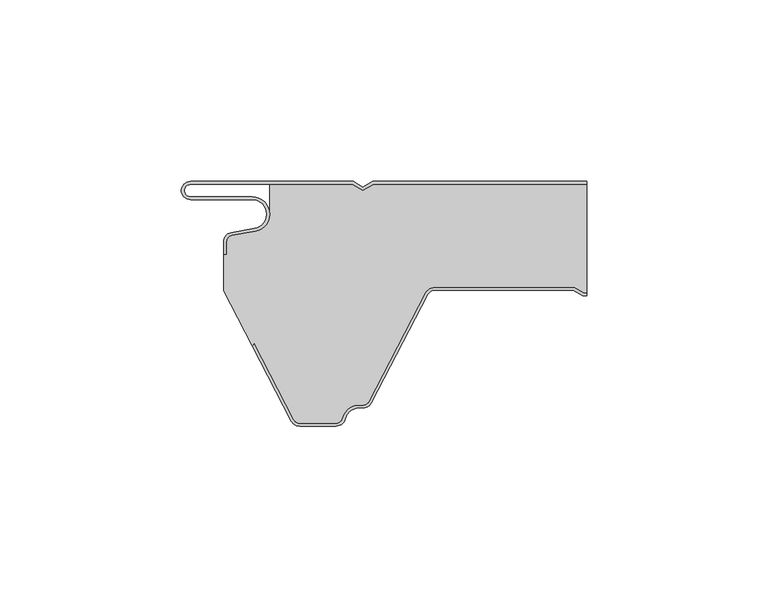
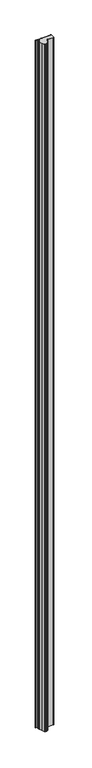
"""IFC4 building model written with IfcOpenShell, lengths in millimetres: plate geometry, ACH_Panel cubierta 5 grecas-PUR-PIR_P5G : ACH_Panel cubierta 5 grecas-PIR-P5G_30mm."""

from ifc_helpers import new_model, si_unit, frame, origin, place, context, project, spatial, polyline, circle_curve, source, transform, mapped, element, save
from ifc_brep_helpers import plane_surface, cylinder_surface, revolved_surface, advanced_brep


def plate_72f0a5d6(model_context):
    return source(origin(), model_context, "Body", "AdvancedBrep", [
        advanced_brep(
        [(-50.0, -16.636349, 5000.0), (-50.0, -20.0, 5000.0), (-49.2, -20.0, 5000.0), (-49.2, -16.636349, 5000.0), (-47.7125667, -14.863695, 5000.0), (-41.266489, -13.7270771, 5000.0), (-42.1, -4.2, 5000.0), (-59.1, -4.2, 5000.0), (-59.1, -0.8, 5000.0), (-14.5143588, -0.8, 5000.0), (-11.6, -2.4826072, 5000.0), (-8.6856412, -0.8, 5000.0), (50.0, -0.8, 5000.0), (50.0, 0.0, 5000.0), (-8.9000007, 0.0, 5000.0), (-11.6, -1.5588466, 5000.0), (-14.2999993, 0.0, 5000.0), (-59.1, 0.0, 5000.0), (-59.1, -5.0, 5000.0), (-42.1, -5.0, 5000.0), (-41.4054075, -12.939231, 5000.0), (-47.851485, -14.075848, 5000.0), (-50.0, -16.636349, 0.0), (-47.8514853, -14.0758488, 0.0), (-41.4054075, -12.9392309, 0.0), (-42.1, -5.0, 0.0), (-59.1, -5.0, 0.0), (-59.1, 0.0, 0.0), (-14.2999993, 0.0, 0.0), (-11.6, -1.5588466, 0.0), (-8.9000007, 0.0, 0.0), (50.0, 0.0, 0.0), (50.0, -0.8, 0.0), (-8.6856412, -0.8, 0.0), (-11.6, -2.4826072, 0.0), (-14.5143588, -0.8, 0.0), (-59.1, -0.8, 0.0), (-59.1, -4.2, 0.0), (-42.1, -4.2, 0.0), (-41.266489, -13.7270773, 0.0), (-47.7125665, -14.8636942, 0.0), (-49.2, -16.636349, 0.0), (-49.2, -20.0, 0.0), (-50.0, -20.0, 0.0)],
        [
            (0, 1),
            (1, 2),
            (2, 3),
            (3, 4, circle_curve(frame((-47.4, -16.636349, 5000.0), z_axis=(0.0, 0.0, -1.0), x_axis=(1.0, 0.0, 0.0)), 1.8)),
            (4, 5),
            (5, 6, circle_curve(frame((-42.1, -9.0, 5000.0), z_axis=(0.0, 0.0, 1.0), x_axis=(1.0, 0.0, 0.0)), 4.8)),
            (6, 7),
            (7, 8, circle_curve(frame((-59.1, -2.5, 5000.0), z_axis=(0.0, 0.0, -1.0), x_axis=(1.0, 0.0, 0.0)), 1.7)),
            (8, 9),
            (9, 10),
            (10, 11),
            (11, 12),
            (12, 13),
            (13, 14),
            (14, 15),
            (15, 16),
            (16, 17),
            (17, 18, circle_curve(frame((-59.1, -2.5, 5000.0), z_axis=(0.0, 0.0, 1.0), x_axis=(1.0, 0.0, 0.0)), 2.5)),
            (18, 19),
            (19, 20, circle_curve(frame((-42.1, -9.0, 5000.0), z_axis=(0.0, 0.0, -1.0), x_axis=(1.0, 0.0, 0.0)), 4.0)),
            (20, 21),
            (21, 0, circle_curve(frame((-47.4, -16.636349, 5000.0), z_axis=(0.0, 0.0, 1.0), x_axis=(1.0, 0.0, 0.0)), 2.6)),
            (22, 23, circle_curve(frame((-47.4, -16.636349, 0.0), z_axis=(0.0, 0.0, -1.0), x_axis=(1.0, 0.0, 0.0)), 2.6)),
            (23, 24),
            (24, 25, circle_curve(frame((-42.1, -9.0, 0.0), z_axis=(0.0, 0.0, 1.0), x_axis=(1.0, 0.0, 0.0)), 4.0)),
            (25, 26),
            (26, 27, circle_curve(frame((-59.1, -2.5, 0.0), z_axis=(0.0, 0.0, -1.0), x_axis=(1.0, 0.0, 0.0)), 2.5)),
            (27, 28),
            (28, 29),
            (29, 30),
            (30, 31),
            (31, 32),
            (32, 33),
            (33, 34),
            (34, 35),
            (35, 36),
            (36, 37, circle_curve(frame((-59.1, -2.5, 0.0), z_axis=(0.0, 0.0, 1.0), x_axis=(1.0, 0.0, 0.0)), 1.7)),
            (37, 38),
            (38, 39, circle_curve(frame((-42.1, -9.0, 0.0), z_axis=(0.0, 0.0, -1.0), x_axis=(1.0, 0.0, 0.0)), 4.8)),
            (39, 40),
            (40, 41, circle_curve(frame((-47.4, -16.636349, 0.0), z_axis=(0.0, 0.0, 1.0), x_axis=(1.0, 0.0, 0.0)), 1.8)),
            (41, 42),
            (42, 43),
            (43, 22),
            (0, 22),
            (43, 1),
            (42, 2),
            (41, 3),
            (40, 4),
            (39, 5),
            (38, 6),
            (37, 7),
            (36, 8),
            (35, 9),
            (34, 10),
            (33, 11),
            (32, 12),
            (30, 14),
            (13, 31),
            (29, 15),
            (28, 16),
            (27, 17),
            (26, 18),
            (25, 19),
            (24, 20),
            (23, 21),
        ],
        [
            plane_surface(frame((-50.0, 0.0, 5000.0), z_axis=(0.0, 0.0, 1.0), x_axis=(0.0, 1.0, 0.0))),
            plane_surface(frame((-50.0, 0.0, 0.0), z_axis=(0.0, 0.0, -1.0), x_axis=(0.0, 1.0, 0.0))),
            plane_surface(frame((-50.0, -16.636349, 5000.0), z_axis=(-1.0, 0.0, 0.0), x_axis=(0.0, 0.0, -1.0))),
            plane_surface(frame((-50.0, -20.0, 5000.0), z_axis=(0.0, -1.0, 0.0), x_axis=(0.0, 0.0, -1.0))),
            plane_surface(frame((-49.2, -20.0, 5000.0), z_axis=(1.0, 0.0, 0.0), x_axis=(0.0, 0.0, -1.0))),
            revolved_surface(polyline([(-45.6, -16.636349, 0.0), (-45.6, -16.636349, 5000.0)]), (-47.4, -16.636349, 5000.0), (0.0, 0.0, -1.0)),
            plane_surface(frame((-47.7125665, -14.8636942, 5000.0), z_axis=(0.17364813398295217, -0.9848077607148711, 0.0), x_axis=(0.0, 0.0, -1.0))),
            cylinder_surface(frame((-42.1, -9.0, 5000.0), z_axis=(0.0, 0.0, 1.0), x_axis=(1.0, 0.0, 0.0)), 4.8),
            plane_surface(frame((-42.1, -4.2, 5000.0), z_axis=(0.0, 1.0, 0.0), x_axis=(0.0, 0.0, -1.0))),
            revolved_surface(polyline([(-57.4, -2.5, 0.0), (-57.4, -2.5, 5000.0)]), (-59.1, -2.5, 5000.0), (0.0, 0.0, -1.0)),
            plane_surface(frame((-59.1, -0.8, 5000.0), z_axis=(0.0, -1.0, 0.0), x_axis=(0.0, 0.0, -1.0))),
            plane_surface(frame((-14.5143588, -0.8, 5000.0), z_axis=(-0.5000003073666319, -0.8660252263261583, 0.0), x_axis=(0.0, 0.0, -1.0))),
            plane_surface(frame((-11.6, -2.4826072, 5000.0), z_axis=(0.5000003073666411, -0.866025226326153, 0.0), x_axis=(0.0, 0.0, -1.0))),
            plane_surface(frame((-8.6856412, -0.8, 5000.0), z_axis=(0.0, -1.0, 0.0), x_axis=(0.0, 0.0, -1.0))),
            plane_surface(frame((85.7000007, 0.0, 5000.0), z_axis=(0.0, 1.0, 0.0), x_axis=(0.0, 0.0, -1.0))),
            plane_surface(frame((-8.9000007, 0.0, 5000.0), z_axis=(-0.5000003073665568, 0.8660252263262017, 0.0), x_axis=(0.0, 0.0, -1.0))),
            plane_surface(frame((-11.6, -1.5588466, 5000.0), z_axis=(0.5000003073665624, 0.8660252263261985, 0.0), x_axis=(0.0, 0.0, -1.0))),
            plane_surface(frame((-14.2999993, 0.0, 5000.0), z_axis=(0.0, 1.0, 0.0), x_axis=(0.0, 0.0, -1.0))),
            cylinder_surface(frame((-59.1, -2.5, 5000.0), z_axis=(0.0, 0.0, 1.0), x_axis=(1.0, 0.0, 0.0)), 2.5),
            plane_surface(frame((-59.1, -5.0, 5000.0), z_axis=(0.0, -1.0, 0.0), x_axis=(0.0, 0.0, -1.0))),
            revolved_surface(polyline([(-38.1, -9.0, 0.0), (-38.1, -9.0, 5000.0)]), (-42.1, -9.0, 5000.0), (0.0, 0.0, -1.0)),
            plane_surface(frame((-41.4054075, -12.9392309, 5000.0), z_axis=(-0.17364813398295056, 0.9848077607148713, 0.0), x_axis=(0.0, 0.0, -1.0))),
            cylinder_surface(frame((-47.4, -16.636349, 5000.0), z_axis=(0.0, 0.0, 1.0), x_axis=(1.0, 0.0, 0.0)), 2.6),
            plane_surface(frame((50.0, 0.0, 5000.0), z_axis=(1.0, 0.0, 0.0), x_axis=(0.0, 0.0, -1.0))),
        ],
        [
            (0, [[1, 2, 3, 4, 5, 6, 7, 8, 9, 10, 11, 12, 13, 14, 15, 16, 17, 18, 19, 20, 21, 22]]),
            (1, [[23, 24, 25, 26, 27, 28, 29, 30, 31, 32, 33, 34, 35, 36, 37, 38, 39, 40, 41, 42, 43, 44]]),
            (2, [[-1, 45, -44, 46]]),
            (3, [[-2, -46, -43, 47]]),
            (4, [[-3, -47, -42, 48]]),
            (5, [[-4, -48, -41, 49]]),
            (6, [[-5, -49, -40, 50]]),
            (7, [[-6, -50, -39, 51]]),
            (8, [[-7, -51, -38, 52]]),
            (9, [[-8, -52, -37, 53]]),
            (10, [[-9, -53, -36, 54]]),
            (11, [[-10, -54, -35, 55]]),
            (12, [[-11, -55, -34, 56]]),
            (13, [[-56, -33, 57, -12]]),
            (14, [[58, -14, 59, -31]]),
            (15, [[-15, -58, -30, 60]]),
            (16, [[-16, -60, -29, 61]]),
            (17, [[-17, -61, -28, 62]]),
            (18, [[-18, -62, -27, 63]]),
            (19, [[-19, -63, -26, 64]]),
            (20, [[-20, -64, -25, 65]]),
            (21, [[-21, -65, -24, 66]]),
            (22, [[-22, -66, -23, -45]]),
            (23, [[-13, -57, -32, -59]]),
        ],
    ),
        advanced_brep(
        [(-30.6207387, -65.6314818, 0.0), (-41.5569015, -44.6340495, 0.0), (-42.1499858, -45.2271753, 0.0), (-50.0, -30.1551481, 0.0), (-50.0, -20.0, 0.0), (-49.2, -20.0, 0.0), (-49.2, -16.636349, 0.0), (-47.7125653, -14.8636948, 0.0), (-41.2664891, -13.7270773, 0.0), (-37.3182654, -8.5816526, 0.0), (-37.3182654, -0.8, 0.0), (-14.5143588, -0.8, 0.0), (-11.6, -2.4826072, 0.0), (-8.6856412, -0.8, 0.0), (50.0, -0.8, 0.0), (50.0, -30.7, 0.0), (49.2107961, -30.7, 0.0), (46.6127185, -29.2, 0.0), (8.090871, -29.2, 0.0), (5.6075115, -30.7065836, 0.0), (-9.9783733, -60.6314825, 0.0), (-11.574819, -61.6, 0.0), (-12.6272901, -61.6, 0.0), (-17.2841077, -65.2363636, 0.0), (-19.030414, -66.5999997, 0.0), (-29.024293, -66.5999997, 0.0), (-30.6207383, -65.6314813, 5000.0), (-29.024293, -66.5999997, 5000.0), (-19.030414, -66.5999997, 5000.0), (-17.2841077, -65.2363636, 5000.0), (-12.6272901, -61.6, 5000.0), (-11.574819, -61.6, 5000.0), (-9.9783737, -60.631482, 5000.0), (5.6075107, -30.7065835, 5000.0), (8.090871, -29.2, 5000.0), (46.6127185, -29.2, 5000.0), (49.2107961, -30.7, 5000.0), (50.0, -30.7, 5000.0), (50.0, -0.8, 5000.0), (-8.6856412, -0.8, 5000.0), (-11.6, -2.4826072, 5000.0), (-14.5143588, -0.8, 5000.0), (-37.3182654, -0.8, 5000.0), (-37.3182654, -8.5816526, 5000.0), (-41.2664891, -13.7270773, 5000.0), (-47.7125651, -14.863694, 5000.0), (-49.2, -16.636349, 5000.0), (-49.2, -20.0, 5000.0), (-50.0, -20.0, 5000.0), (-50.0, -30.1551481, 5000.0), (-42.1499858, -45.2271753, 5000.0), (-41.5569015, -44.6340495, 5000.0)],
        [
            (0, 1),
            (1, 2),
            (2, 3),
            (3, 4),
            (4, 5),
            (5, 6),
            (6, 7, circle_curve(frame((-47.4, -16.636349, 0.0), z_axis=(0.0, 0.0, -1.0), x_axis=(-1.0, 0.0, 0.0)), 1.8)),
            (7, 8),
            (8, 9, circle_curve(frame((-42.1, -9.0, 0.0), z_axis=(0.0, 0.0, 1.0), x_axis=(-1.0, 0.0, 0.0)), 4.8)),
            (9, 10),
            (10, 11),
            (11, 12),
            (12, 13),
            (13, 14),
            (14, 15),
            (15, 16),
            (16, 17),
            (17, 18),
            (18, 19, circle_curve(frame((8.090871, -32.0, 0.0), z_axis=(0.0, 0.0, 1.0), x_axis=(-1.0, 0.0, 0.0)), 2.8)),
            (19, 20),
            (20, 21, circle_curve(frame((-11.574819, -59.8, 0.0), z_axis=(0.0, 0.0, -1.0), x_axis=(-1.0, 0.0, 0.0)), 1.8)),
            (21, 22),
            (22, 23, circle_curve(frame((-12.6272901, -66.4, 0.0), z_axis=(0.0, 0.0, 1.0), x_axis=(-1.0, 0.0, 0.0)), 4.8)),
            (23, 24, circle_curve(frame((-19.030414, -64.8, 0.0), z_axis=(0.0, 0.0, -1.0), x_axis=(-1.0, 0.0, 0.0)), 1.7999997)),
            (24, 25),
            (25, 0, circle_curve(frame((-29.024293, -64.8, 0.0), z_axis=(0.0, 0.0, -1.0), x_axis=(-1.0, 0.0, 0.0)), 1.7999997)),
            (26, 27, circle_curve(frame((-29.024293, -64.8, 5000.0), z_axis=(0.0, 0.0, 1.0), x_axis=(-1.0, 0.0, 0.0)), 1.7999997)),
            (27, 28),
            (28, 29, circle_curve(frame((-19.030414, -64.8, 5000.0), z_axis=(0.0, 0.0, 1.0), x_axis=(-1.0, 0.0, 0.0)), 1.7999997)),
            (29, 30, circle_curve(frame((-12.6272901, -66.4, 5000.0), z_axis=(0.0, 0.0, -1.0), x_axis=(-1.0, 0.0, 0.0)), 4.8)),
            (30, 31),
            (31, 32, circle_curve(frame((-11.574819, -59.8, 5000.0), z_axis=(0.0, 0.0, 1.0), x_axis=(-1.0, 0.0, 0.0)), 1.8)),
            (32, 33),
            (33, 34, circle_curve(frame((8.090871, -32.0, 5000.0), z_axis=(0.0, 0.0, -1.0), x_axis=(-1.0, 0.0, 0.0)), 2.8)),
            (34, 35),
            (35, 36),
            (36, 37),
            (37, 38),
            (38, 39),
            (39, 40),
            (40, 41),
            (41, 42),
            (42, 43),
            (43, 44, circle_curve(frame((-42.1, -9.0, 5000.0), z_axis=(0.0, 0.0, -1.0), x_axis=(-1.0, 0.0, 0.0)), 4.8)),
            (44, 45),
            (45, 46, circle_curve(frame((-47.4, -16.636349, 5000.0), z_axis=(0.0, 0.0, 1.0), x_axis=(-1.0, 0.0, 0.0)), 1.8)),
            (46, 47),
            (47, 48),
            (48, 49),
            (49, 50),
            (50, 51),
            (51, 26),
            (0, 26),
            (51, 1),
            (50, 2),
            (49, 3),
            (48, 4),
            (47, 5),
            (46, 6),
            (45, 7),
            (44, 8),
            (43, 9),
            (42, 10),
            (41, 11),
            (40, 12),
            (39, 13),
            (38, 14),
            (36, 16),
            (15, 37),
            (35, 17),
            (34, 18),
            (33, 19),
            (32, 20),
            (31, 21),
            (30, 22),
            (29, 23),
            (28, 24),
            (27, 25),
        ],
        [
            plane_surface(frame((-50.0, 0.0, 0.0), z_axis=(0.0, 0.0, -1.0), x_axis=(0.0, 1.0, 0.0))),
            plane_surface(frame((-50.0, 0.0, 5000.0), z_axis=(0.0, 0.0, 1.0), x_axis=(0.0, 1.0, 0.0))),
            plane_surface(frame((-30.6207387, -65.6314818, 0.0), z_axis=(-0.8869140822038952, -0.46193442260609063, 0.0), x_axis=(0.0, 0.0, 1.0))),
            plane_surface(frame((-41.5569015, -44.6340495, 0.0), z_axis=(0.7071314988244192, -0.7070820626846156, 0.0), x_axis=(0.0, 0.0, 1.0))),
            plane_surface(frame((-42.1499858, -45.2271753, 0.0), z_axis=(-0.8869140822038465, -0.46193442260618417, 0.0), x_axis=(0.0, 0.0, 1.0))),
            plane_surface(frame((-50.0, -30.1551481, 0.0), z_axis=(-1.0, 0.0, 0.0), x_axis=(0.0, 0.0, 1.0))),
            plane_surface(frame((-50.0, -20.0, 0.0), z_axis=(0.0, 1.0, 0.0), x_axis=(0.0, 0.0, 1.0))),
            plane_surface(frame((-49.2, -20.0, 0.0), z_axis=(-1.0, 0.0, 0.0), x_axis=(0.0, 0.0, 1.0))),
            cylinder_surface(frame((-47.4, -16.636349, 0.0), z_axis=(0.0, 0.0, -1.0), x_axis=(-1.0, 0.0, 0.0)), 1.8),
            plane_surface(frame((-47.7125651, -14.863694, 0.0), z_axis=(-0.17364811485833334, 0.9848077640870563, 0.0), x_axis=(0.0, 0.0, 1.0))),
            revolved_surface(polyline([(-46.9, -9.0, 5000.0), (-46.9, -9.0, 0.0)]), (-42.1, -9.0, 0.0), (0.0, 0.0, 1.0)),
            plane_surface(frame((-37.3182654, -8.5816526, 0.0), z_axis=(-1.0, 0.0, 0.0), x_axis=(0.0, 0.0, 1.0))),
            plane_surface(frame((-37.3182654, -0.8, 0.0), z_axis=(0.0, 1.0, 0.0), x_axis=(0.0, 0.0, 1.0))),
            plane_surface(frame((-14.5143588, -0.8, 0.0), z_axis=(0.500000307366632, 0.8660252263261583, 0.0), x_axis=(0.0, 0.0, 1.0))),
            plane_surface(frame((-11.6, -2.4826072, 0.0), z_axis=(-0.500000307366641, 0.8660252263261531, 0.0), x_axis=(0.0, 0.0, 1.0))),
            plane_surface(frame((-8.6856412, -0.8, 0.0), z_axis=(0.0, 1.0, 0.0), x_axis=(0.0, 0.0, 1.0))),
            plane_surface(frame((81.5859248, -30.7, 0.0), z_axis=(0.0, -1.0, 0.0), x_axis=(0.0, 0.0, 1.0))),
            plane_surface(frame((49.2107961, -30.7, 0.0), z_axis=(-0.49999979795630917, -0.8660255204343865, 0.0), x_axis=(0.0, 0.0, 1.0))),
            plane_surface(frame((46.6127185, -29.2, 0.0), z_axis=(0.0, -1.0, 0.0), x_axis=(0.0, 0.0, 1.0))),
            revolved_surface(polyline([(5.290871, -32.0, 5000.0), (5.290871, -32.0, 0.0)]), (8.090871, -32.0, 0.0), (0.0, 0.0, 1.0)),
            plane_surface(frame((5.6075107, -30.7065835, 0.0), z_axis=(0.8869140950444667, -0.46193439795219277, 0.0), x_axis=(0.0, 0.0, 1.0))),
            cylinder_surface(frame((-11.574819, -59.8, 0.0), z_axis=(0.0, 0.0, -1.0), x_axis=(-1.0, 0.0, 0.0)), 1.8),
            plane_surface(frame((-11.574819, -61.6, 0.0), z_axis=(0.0, -1.0, 0.0), x_axis=(0.0, 0.0, 1.0))),
            revolved_surface(polyline([(-17.4272901, -66.4, 5000.0), (-17.4272901, -66.4, 0.0)]), (-12.6272901, -66.4, 0.0), (0.0, 0.0, 1.0)),
            cylinder_surface(frame((-19.030414, -64.8, 0.0), z_axis=(0.0, 0.0, -1.0), x_axis=(-1.0, 0.0, 0.0)), 1.7999997),
            plane_surface(frame((-19.030414, -66.5999997, 0.0), z_axis=(0.0, -1.0, 0.0), x_axis=(0.0, 0.0, 1.0))),
            cylinder_surface(frame((-29.024293, -64.8, 0.0), z_axis=(0.0, 0.0, -1.0), x_axis=(-1.0, 0.0, 0.0)), 1.7999997),
            plane_surface(frame((50.0, 0.0, 5000.0), z_axis=(1.0, 0.0, 0.0), x_axis=(0.0, 0.0, -1.0))),
        ],
        [
            (0, [[1, 2, 3, 4, 5, 6, 7, 8, 9, 10, 11, 12, 13, 14, 15, 16, 17, 18, 19, 20, 21, 22, 23, 24, 25, 26]]),
            (1, [[27, 28, 29, 30, 31, 32, 33, 34, 35, 36, 37, 38, 39, 40, 41, 42, 43, 44, 45, 46, 47, 48, 49, 50, 51, 52]]),
            (2, [[-1, 53, -52, 54]]),
            (3, [[-2, -54, -51, 55]]),
            (4, [[-3, -55, -50, 56]]),
            (5, [[-4, -56, -49, 57]]),
            (6, [[-5, -57, -48, 58]]),
            (7, [[-6, -58, -47, 59]]),
            (8, [[-7, -59, -46, 60]]),
            (9, [[-8, -60, -45, 61]]),
            (10, [[-9, -61, -44, 62]]),
            (11, [[-10, -62, -43, 63]]),
            (12, [[-11, -63, -42, 64]]),
            (13, [[-12, -64, -41, 65]]),
            (14, [[-13, -65, -40, 66]]),
            (15, [[-66, -39, 67, -14]]),
            (16, [[68, -16, 69, -37]]),
            (17, [[-17, -68, -36, 70]]),
            (18, [[-18, -70, -35, 71]]),
            (19, [[-19, -71, -34, 72]]),
            (20, [[-20, -72, -33, 73]]),
            (21, [[-21, -73, -32, 74]]),
            (22, [[-22, -74, -31, 75]]),
            (23, [[-23, -75, -30, 76]]),
            (24, [[-24, -76, -29, 77]]),
            (25, [[-25, -77, -28, 78]]),
            (26, [[-26, -78, -27, -53]]),
            (27, [[-15, -67, -38, -69]]),
        ],
    ),
        advanced_brep(
        [(49.2107962, -30.7, 5000.0), (46.6127186, -29.2, 5000.0), (8.090871, -29.2, 5000.0), (5.6075116, -30.7065836, 5000.0), (-9.9783733, -60.6314825, 5000.0), (-11.574819, -61.6, 5000.0), (-12.62729, -61.6, 5000.0), (-17.2841076, -65.2363636, 5000.0), (-19.030414, -66.6, 5000.0), (-29.024293, -66.6, 5000.0), (-30.6207383, -65.631482, 5000.0), (-41.5569015, -44.6340495, 5000.0), (-42.15, -45.227148, 5000.0), (-31.33027, -66.00103, 5000.0), (-29.024293, -67.4, 5000.0), (-19.030414, -67.4, 5000.0), (-16.5079711, -65.4303031, 5000.0), (-12.62729, -62.4, 5000.0), (-11.574819, -62.4, 5000.0), (-9.2688424, -61.0010295, 5000.0), (6.317042, -31.076131, 5000.0), (8.090871, -30.0, 5000.0), (46.3983593, -30.0, 5000.0), (48.9964369, -31.5, 5000.0), (50.0, -31.5, 5000.0), (50.0, -30.7, 5000.0), (48.9964369, -31.5, 0.0), (46.3983593, -30.0, 0.0), (8.090871, -30.0, 0.0), (6.3170428, -31.0761312, 0.0), (-9.268842, -61.00103, 0.0), (-11.574819, -62.4, 0.0), (-12.62729, -62.4, 0.0), (-16.5079713, -65.430303, 0.0), (-19.030414, -67.4, 0.0), (-29.024293, -67.4, 0.0), (-31.3302696, -66.0010295, 0.0), (-42.15, -45.227148, 0.0), (-41.5569015, -44.6340495, 0.0), (-30.6207387, -65.6314825, 0.0), (-29.024293, -66.6, 0.0), (-19.030414, -66.6, 0.0), (-17.2841074, -65.2363637, 0.0), (-12.62729, -61.6, 0.0), (-11.574819, -61.6, 0.0), (-9.9783737, -60.631482, 0.0), (5.6075107, -30.7065835, 0.0), (8.090871, -29.2, 0.0), (46.6127186, -29.2, 0.0), (49.2107962, -30.7, 0.0), (50.0, -30.7, 0.0), (50.0, -31.5, 0.0)],
        [
            (0, 1),
            (1, 2),
            (2, 3, circle_curve(frame((8.090871, -32.0, 5000.0), z_axis=(0.0, 0.0, 1.0), x_axis=(1.0, 0.0, 0.0)), 2.8)),
            (3, 4),
            (4, 5, circle_curve(frame((-11.574819, -59.8, 5000.0), z_axis=(0.0, 0.0, -1.0), x_axis=(1.0, 0.0, 0.0)), 1.8)),
            (5, 6),
            (6, 7, circle_curve(frame((-12.62729, -66.4, 5000.0), z_axis=(0.0, 0.0, 1.0), x_axis=(1.0, 0.0, 0.0)), 4.8)),
            (7, 8, circle_curve(frame((-19.030414, -64.8, 5000.0), z_axis=(0.0, 0.0, -1.0), x_axis=(1.0, 0.0, 0.0)), 1.8)),
            (8, 9),
            (9, 10, circle_curve(frame((-29.024293, -64.8, 5000.0), z_axis=(0.0, 0.0, -1.0), x_axis=(1.0, 0.0, 0.0)), 1.8)),
            (10, 11),
            (11, 12),
            (12, 13),
            (13, 14, circle_curve(frame((-29.024293, -64.8, 5000.0), z_axis=(0.0, 0.0, 1.0), x_axis=(1.0, 0.0, 0.0)), 2.6)),
            (14, 15),
            (15, 16, circle_curve(frame((-19.030414, -64.8, 5000.0), z_axis=(0.0, 0.0, 1.0), x_axis=(1.0, 0.0, 0.0)), 2.6)),
            (16, 17, circle_curve(frame((-12.62729, -66.4, 5000.0), z_axis=(0.0, 0.0, -1.0), x_axis=(1.0, 0.0, 0.0)), 4.0)),
            (17, 18),
            (18, 19, circle_curve(frame((-11.574819, -59.8, 5000.0), z_axis=(0.0, 0.0, 1.0), x_axis=(1.0, 0.0, 0.0)), 2.6)),
            (19, 20),
            (20, 21, circle_curve(frame((8.090871, -32.0, 5000.0), z_axis=(0.0, 0.0, -1.0), x_axis=(1.0, 0.0, 0.0)), 2.0)),
            (21, 22),
            (22, 23),
            (23, 24),
            (24, 25),
            (25, 0),
            (26, 27),
            (27, 28),
            (28, 29, circle_curve(frame((8.090871, -32.0, 0.0), z_axis=(0.0, 0.0, 1.0), x_axis=(1.0, 0.0, 0.0)), 2.0)),
            (29, 30),
            (30, 31, circle_curve(frame((-11.574819, -59.8, 0.0), z_axis=(0.0, 0.0, -1.0), x_axis=(1.0, 0.0, 0.0)), 2.6)),
            (31, 32),
            (32, 33, circle_curve(frame((-12.62729, -66.4, 0.0), z_axis=(0.0, 0.0, 1.0), x_axis=(1.0, 0.0, 0.0)), 4.0)),
            (33, 34, circle_curve(frame((-19.030414, -64.8, 0.0), z_axis=(0.0, 0.0, -1.0), x_axis=(1.0, 0.0, 0.0)), 2.6)),
            (34, 35),
            (35, 36, circle_curve(frame((-29.024293, -64.8, 0.0), z_axis=(0.0, 0.0, -1.0), x_axis=(1.0, 0.0, 0.0)), 2.6)),
            (36, 37),
            (37, 38),
            (38, 39),
            (39, 40, circle_curve(frame((-29.024293, -64.8, 0.0), z_axis=(0.0, 0.0, 1.0), x_axis=(1.0, 0.0, 0.0)), 1.8)),
            (40, 41),
            (41, 42, circle_curve(frame((-19.030414, -64.8, 0.0), z_axis=(0.0, 0.0, 1.0), x_axis=(1.0, 0.0, 0.0)), 1.8)),
            (42, 43, circle_curve(frame((-12.62729, -66.4, 0.0), z_axis=(0.0, 0.0, -1.0), x_axis=(1.0, 0.0, 0.0)), 4.8)),
            (43, 44),
            (44, 45, circle_curve(frame((-11.574819, -59.8, 0.0), z_axis=(0.0, 0.0, 1.0), x_axis=(1.0, 0.0, 0.0)), 1.8)),
            (45, 46),
            (46, 47, circle_curve(frame((8.090871, -32.0, 0.0), z_axis=(0.0, 0.0, -1.0), x_axis=(1.0, 0.0, 0.0)), 2.8)),
            (47, 48),
            (48, 49),
            (49, 50),
            (50, 51),
            (51, 26),
            (49, 0),
            (25, 50),
            (48, 1),
            (47, 2),
            (46, 3),
            (45, 4),
            (44, 5),
            (43, 6),
            (42, 7),
            (41, 8),
            (40, 9),
            (39, 10),
            (38, 11),
            (37, 12),
            (36, 13),
            (35, 14),
            (34, 15),
            (33, 16),
            (32, 17),
            (31, 18),
            (30, 19),
            (29, 20),
            (28, 21),
            (27, 22),
            (26, 23),
            (51, 24),
        ],
        [
            plane_surface(frame((-50.0, -30.0, 5000.0), z_axis=(0.0, 0.0, 1.0), x_axis=(0.0, 1.0, 0.0))),
            plane_surface(frame((-50.0, -30.0, 0.0), z_axis=(0.0, 0.0, -1.0), x_axis=(0.0, 1.0, 0.0))),
            plane_surface(frame((81.5859248, -30.7, 5000.0), z_axis=(0.0, 1.0, 0.0), x_axis=(0.0, 0.0, -1.0))),
            plane_surface(frame((49.2107962, -30.7, 5000.0), z_axis=(0.4999997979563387, 0.8660255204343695, 0.0), x_axis=(0.0, 0.0, -1.0))),
            plane_surface(frame((46.6127186, -29.2, 5000.0), z_axis=(0.0, 1.0, 0.0), x_axis=(0.0, 0.0, -1.0))),
            cylinder_surface(frame((8.090871, -32.0, 5000.0), z_axis=(0.0, 0.0, 1.0), x_axis=(1.0, 0.0, 0.0)), 2.8),
            plane_surface(frame((5.6075107, -30.7065835, 5000.0), z_axis=(-0.8869140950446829, 0.4619343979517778, 0.0), x_axis=(0.0, 0.0, -1.0))),
            revolved_surface(polyline([(-9.774818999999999, -59.8, 0.0), (-9.774818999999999, -59.8, 5000.0)]), (-11.574819, -59.8, 5000.0), (0.0, 0.0, -1.0)),
            plane_surface(frame((-11.574819, -61.6, 5000.0), z_axis=(0.0, 1.0, 0.0), x_axis=(0.0, 0.0, -1.0))),
            cylinder_surface(frame((-12.62729, -66.4, 5000.0), z_axis=(0.0, 0.0, 1.0), x_axis=(1.0, 0.0, 0.0)), 4.8),
            revolved_surface(polyline([(-17.230414, -64.8, 0.0), (-17.230414, -64.8, 5000.0)]), (-19.030414, -64.8, 5000.0), (0.0, 0.0, -1.0)),
            plane_surface(frame((-19.030414, -66.6, 5000.0), z_axis=(0.0, 1.0, 0.0), x_axis=(0.0, 0.0, -1.0))),
            revolved_surface(polyline([(-27.224293, -64.8, 0.0), (-27.224293, -64.8, 5000.0)]), (-29.024293, -64.8, 5000.0), (0.0, 0.0, -1.0)),
            plane_surface(frame((-30.6207387, -65.6314825, 5000.0), z_axis=(0.8869140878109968, 0.46193441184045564, 0.0), x_axis=(0.0, 0.0, -1.0))),
            plane_surface(frame((-41.5569015, -44.6340495, 5000.0), z_axis=(-0.7071067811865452, 0.7071067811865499, 0.0), x_axis=(0.0, 0.0, -1.0))),
            plane_surface(frame((-42.15, -45.227148, 5000.0), z_axis=(-0.8869140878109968, -0.46193441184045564, 0.0), x_axis=(0.0, 0.0, -1.0))),
            cylinder_surface(frame((-29.024293, -64.8, 5000.0), z_axis=(0.0, 0.0, 1.0), x_axis=(1.0, 0.0, 0.0)), 2.6),
            plane_surface(frame((-29.024293, -67.4, 5000.0), z_axis=(0.0, -1.0, 0.0), x_axis=(0.0, 0.0, -1.0))),
            cylinder_surface(frame((-19.030414, -64.8, 5000.0), z_axis=(0.0, 0.0, 1.0), x_axis=(1.0, 0.0, 0.0)), 2.6),
            revolved_surface(polyline([(-8.62729, -66.4, 0.0), (-8.62729, -66.4, 5000.0)]), (-12.62729, -66.4, 5000.0), (0.0, 0.0, -1.0)),
            plane_surface(frame((-12.62729, -62.4, 5000.0), z_axis=(0.0, -1.0, 0.0), x_axis=(0.0, 0.0, -1.0))),
            cylinder_surface(frame((-11.574819, -59.8, 5000.0), z_axis=(0.0, 0.0, 1.0), x_axis=(1.0, 0.0, 0.0)), 2.6),
            plane_surface(frame((-9.268842, -61.00103, 5000.0), z_axis=(0.8869140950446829, -0.4619343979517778, 0.0), x_axis=(0.0, 0.0, -1.0))),
            revolved_surface(polyline([(10.090871, -32.0, 0.0), (10.090871, -32.0, 5000.0)]), (8.090871, -32.0, 5000.0), (0.0, 0.0, -1.0)),
            plane_surface(frame((8.090871, -30.0, 5000.0), z_axis=(0.0, -1.0, 0.0), x_axis=(0.0, 0.0, -1.0))),
            plane_surface(frame((46.3983593, -30.0, 5000.0), z_axis=(-0.4999997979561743, -0.8660255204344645, 0.0), x_axis=(0.0, 0.0, -1.0))),
            plane_surface(frame((48.9964369, -31.5, 5000.0), z_axis=(0.0, -1.0, 0.0), x_axis=(0.0, 0.0, -1.0))),
            plane_surface(frame((50.0, 0.0, 5000.0), z_axis=(1.0, 0.0, 0.0), x_axis=(0.0, 0.0, -1.0))),
        ],
        [
            (0, [[1, 2, 3, 4, 5, 6, 7, 8, 9, 10, 11, 12, 13, 14, 15, 16, 17, 18, 19, 20, 21, 22, 23, 24, 25, 26]]),
            (1, [[27, 28, 29, 30, 31, 32, 33, 34, 35, 36, 37, 38, 39, 40, 41, 42, 43, 44, 45, 46, 47, 48, 49, 50, 51, 52]]),
            (2, [[53, -26, 54, -50]]),
            (3, [[-1, -53, -49, 55]]),
            (4, [[-2, -55, -48, 56]]),
            (5, [[-3, -56, -47, 57]]),
            (6, [[-4, -57, -46, 58]]),
            (7, [[-5, -58, -45, 59]]),
            (8, [[-6, -59, -44, 60]]),
            (9, [[-7, -60, -43, 61]]),
            (10, [[-8, -61, -42, 62]]),
            (11, [[-9, -62, -41, 63]]),
            (12, [[-10, -63, -40, 64]]),
            (13, [[-11, -64, -39, 65]]),
            (14, [[-12, -65, -38, 66]]),
            (15, [[-13, -66, -37, 67]]),
            (16, [[-14, -67, -36, 68]]),
            (17, [[-15, -68, -35, 69]]),
            (18, [[-16, -69, -34, 70]]),
            (19, [[-17, -70, -33, 71]]),
            (20, [[-18, -71, -32, 72]]),
            (21, [[-19, -72, -31, 73]]),
            (22, [[-20, -73, -30, 74]]),
            (23, [[-21, -74, -29, 75]]),
            (24, [[-22, -75, -28, 76]]),
            (25, [[-23, -76, -27, 77]]),
            (26, [[-77, -52, 78, -24]]),
            (27, [[-25, -78, -51, -54]]),
        ],
    ),
    ])


if __name__ == "__main__":
    model = new_model("IFC4")
    model_context = context("Model", 3, world=origin())
    ifc_project = project(units=[si_unit("LENGTHUNIT", "METRE", prefix="MILLI")], contexts=[model_context])
    site = spatial("IfcSite", under=ifc_project)
    building = spatial("IfcBuilding", under=site)
    placement = place(None, origin())
    plate_shape = plate_72f0a5d6(model_context)
    element("IfcPlate", 1, ObjectType="ACH_Panel cubierta 5 grecas-PUR-PIR_P5G : ACH_Panel cubierta 5 grecas-PIR-P5G_30mm", at=placement, inside=building, context=model_context, shape_type="MappedRepresentation", body=[
        mapped(plate_shape, transform((0.0, 0.0, 0.0), x_axis=(1.0, 0.0, 0.0), y_axis=(0.0, 1.0, 0.0), z_axis=(0.0, 0.0, 1.0))),
    ])
    save(model, "model.ifc")
